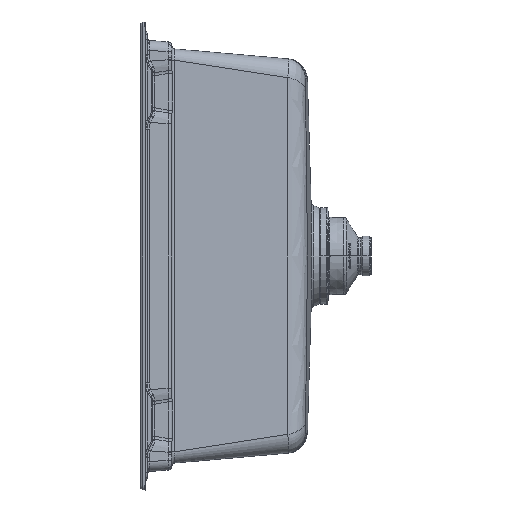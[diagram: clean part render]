
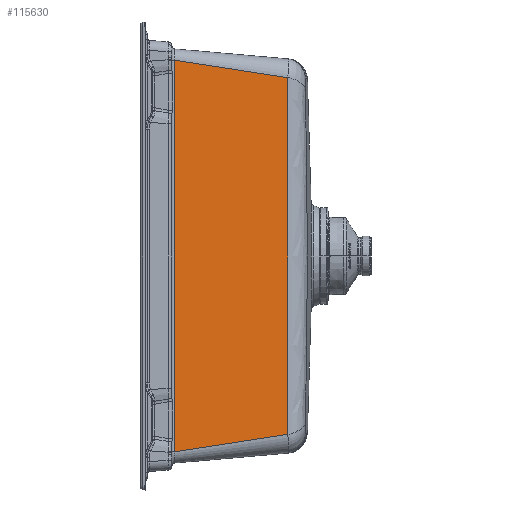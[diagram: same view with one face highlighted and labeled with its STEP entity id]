
A CAD part, left-side view. The second image highlights one B-rep face of the part: STEP entity #115630.
In plain terms, the highlighted planar face has unit normal (-0.996, -0.087, 0).
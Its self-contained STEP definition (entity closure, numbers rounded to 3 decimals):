
#5207 = DIRECTION ( 'NONE',  ( -0.087, 0.996, 0. ) ) ;
#8360 = EDGE_LOOP ( 'NONE', ( #53819, #121591, #63842, #71374 ) ) ;
#16920 = CARTESIAN_POINT ( 'NONE',  ( 40.932, -127.429, -60.688 ) ) ;
#21818 = PLANE ( 'NONE',  #66693 ) ;
#24309 = CARTESIAN_POINT ( 'NONE',  ( 32.902, -35.651, -524.053 ) ) ;
#26146 = CARTESIAN_POINT ( 'NONE',  ( 32.902, -35.651, -523.489 ) ) ;
#33553 = CARTESIAN_POINT ( 'NONE',  ( 44.947, -173.318, -67.776 ) ) ;
#40022 = VECTOR ( 'NONE', #108569, 1000. ) ;
#52643 = CARTESIAN_POINT ( 'NONE',  ( 32.902, -35.651, -46.511 ) ) ;
#53124 = EDGE_CURVE ( 'NONE', #217633, #81801, #188623, .T. ) ;
#53819 = ORIENTED_EDGE ( 'NONE', *, *, #53124, .F. ) ;
#55071 = FACE_OUTER_BOUND ( 'NONE', #8360, .T. ) ;
#59411 = CARTESIAN_POINT ( 'NONE',  ( 36.917, -81.54, -516.4 ) ) ;
#63842 = ORIENTED_EDGE ( 'NONE', *, *, #122025, .F. ) ;
#66693 = AXIS2_PLACEMENT_3D ( 'NONE', #107148, #193628, #5207 ) ;
#71374 = ORIENTED_EDGE ( 'NONE', *, *, #192954, .F. ) ;
#76079 = CARTESIAN_POINT ( 'NONE',  ( 40.932, -127.429, -509.312 ) ) ;
#77168 = CARTESIAN_POINT ( 'NONE',  ( 44.947, -173.318, -502.224 ) ) ;
#81801 = VERTEX_POINT ( 'NONE', #201296 ) ;
#83487 = CARTESIAN_POINT ( 'NONE',  ( 32.902, -35.651, -46.511 ) ) ;
#89800 = LINE ( 'NONE', #24309, #40022 ) ;
#107148 = CARTESIAN_POINT ( 'NONE',  ( 31.944, -24.697, -530.162 ) ) ;
#108569 = DIRECTION ( 'NONE',  ( 0., 0., -1. ) ) ;
#110348 = CARTESIAN_POINT ( 'NONE',  ( 44.947, -173.318, -530.162 ) ) ;
#115630 = ADVANCED_FACE ( 'NONE', ( #55071 ), #21818, .F. ) ;
#116609 = VERTEX_POINT ( 'NONE', #142439 ) ;
#121591 = ORIENTED_EDGE ( 'NONE', *, *, #182011, .T. ) ;
#122025 = EDGE_CURVE ( 'NONE', #116609, #211942, #125640, .T. ) ;
#125640 = B_SPLINE_CURVE_WITH_KNOTS ( 'NONE', 3,
 ( #77168, #76079, #59411, #26146 ),
 .UNSPECIFIED., .F., .F.,
 ( 4, 4 ),
 ( -0.119, 0.02 ),
 .UNSPECIFIED. ) ;
#142439 = CARTESIAN_POINT ( 'NONE',  ( 44.947, -173.318, -502.224 ) ) ;
#145832 = DIRECTION ( 'NONE',  ( 0., 0., -1. ) ) ;
#148450 = CARTESIAN_POINT ( 'NONE',  ( 32.902, -35.651, -523.489 ) ) ;
#182011 = EDGE_CURVE ( 'NONE', #217633, #211942, #89800, .T. ) ;
#182418 = LINE ( 'NONE', #110348, #182433 ) ;
#182433 = VECTOR ( 'NONE', #145832, 1000. ) ;
#187642 = CARTESIAN_POINT ( 'NONE',  ( 36.917, -81.54, -53.6 ) ) ;
#188623 = B_SPLINE_CURVE_WITH_KNOTS ( 'NONE', 3,
 ( #83487, #187642, #16920, #33553 ),
 .UNSPECIFIED., .F., .F.,
 ( 4, 4 ),
 ( -0.097, 0.042 ),
 .UNSPECIFIED. ) ;
#192954 = EDGE_CURVE ( 'NONE', #81801, #116609, #182418, .T. ) ;
#193628 = DIRECTION ( 'NONE',  ( 0.996, 0.087, 0. ) ) ;
#201296 = CARTESIAN_POINT ( 'NONE',  ( 44.947, -173.318, -67.776 ) ) ;
#211942 = VERTEX_POINT ( 'NONE', #148450 ) ;
#217633 = VERTEX_POINT ( 'NONE', #52643 ) ;
